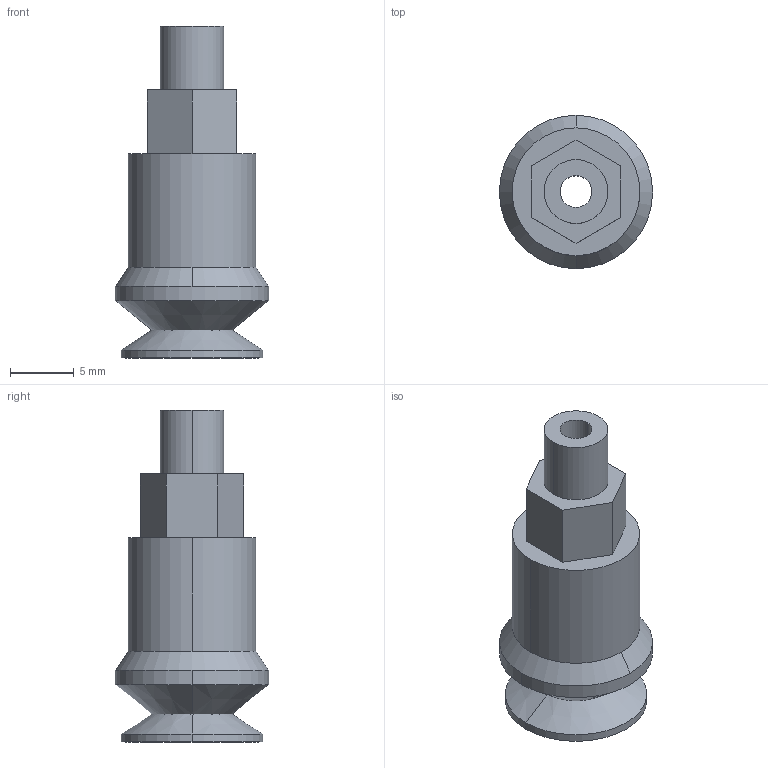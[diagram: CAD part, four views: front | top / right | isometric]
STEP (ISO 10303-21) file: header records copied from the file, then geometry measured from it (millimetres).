
FILE_DESCRIPTION (( 'STEP AP203' ), '1' );
FILE_NAME ('FSGA-14-NBR-55.STEP', '2024-03-04T03:17:39', ( '微软用户' ), ( '微软中国' ), 'SwSTEP 2.0', 'SolidWorks 2018', '' );
FILE_SCHEMA (( 'CONFIG_CONTROL_DESIGN' ));
Length unit declared in the file: millimetre
Products named in the file (3): 1; 1_2; FSGA-14-NBR-55
Assembly tree (2 placements, depth 2):
  FSGA-14-NBR-55
    1
    1_2
Bounding box: 12 x 12 x 26 mm (x, y, z)
Volume: 1289 mm3; surface area: 1533.1 mm2
Topology: 2 solids, 2 shells, 52 faces, 112 edges, 70 vertices
Faces by surface type: cylinder 20, cone 16, plane 16
Entity records: 1735 total; most frequent: DIRECTION 284, CARTESIAN_POINT 239, ORIENTED_EDGE 224, AXIS2_PLACEMENT_3D 115, EDGE_CURVE 112, VERTEX_POINT 70, EDGE_LOOP 62, CIRCLE 58
